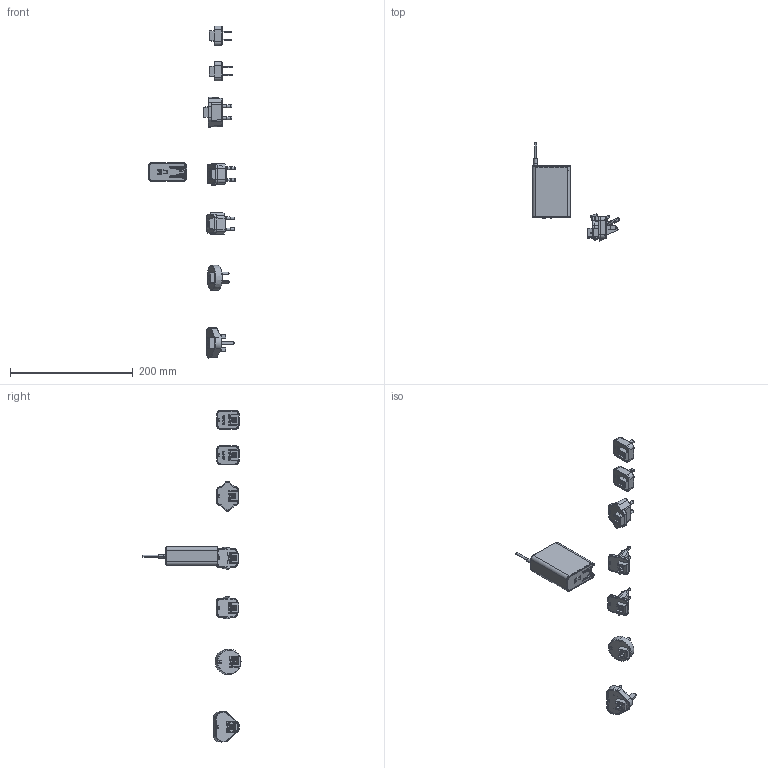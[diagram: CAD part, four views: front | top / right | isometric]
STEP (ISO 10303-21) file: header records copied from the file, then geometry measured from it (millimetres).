
FILE_DESCRIPTION(('Creo Elements/Direct Modeling STEP Export'),'2;1');
FILE_NAME('NGE90I.stp','2025-09-30T10:57:57',(''),(''),'Creo Elements/Direct Modeling STEP processor for AP214 (Solid Model)','Creo Elements/Direct Modeling 19.0G 27-Nov-2017 (C) Parametric Technology GmbH','');
FILE_SCHEMA(('AUTOMOTIVE_DESIGN { 1 0 10303 214 1 1 1 1 }'));
Length unit declared in the file: millimetre
Products named in the file (607): 零件1; _X2_96F64EF6_X0_1.PRT; ZHAOFAA4CA11JC19_ASM_ASM_ASM_AS.ASM; EU_1__STP_ASM_ASM_ASM_ASM_ASM.ASM; _X2_96F64EF6_X0_7_PRT_PRT-12670.ASM; _X2_96F64EF6_X0_6_PRT_PRT-25350.ASM; _X2_96F64EF6_X0_4_PRT_PRT-38030.ASM; _X2_96F64EF6_X0_3_PRT_PRT-50710.ASM; _X2_96F64EF6_X0_2_PRT_PRT-67610.ASM; _X2_96F64EF6_X0_1_PRT_P--177310.ASM; _X2_5F397247_X0_2_PRT_PR-189530.ASM; _X2_5F397247_X0_-195600_-201750.ASM; _X2_540E76D6_X0__PRT_PRT-323730.ASM; ZHAO54408073H96W_7_PRT_P-331470.ASM; ZHAO54408073H96W_15_PRT_-339210.ASM; ZHAO54408073H96W_14_PRT_-521310.ASM; ZHAO54408073H96W_12_PRT_-530730.ASM; ZHAO54408073H96W_11_PRT_-542390.ASM; ZHAO54408073H96W_10_PRT_-640030.ASM; ZHAO4A584105HRA6_3_PRT_P-827980.ASM; ZHAO1E64C46CAO2S_5_PRT_-1059460.PRT; ZHAO1E64C46CAO2S_5_PRT_-1065660.ASM; ZHAO1E64C46CAO2S_3_PRT_-1336520.PRT; ZHAO1E64C46CAO2S_3_PRT_-1342720.ASM; ADMI2C6073B82TSY_12_PRT-1920830.PRT; ZHAO1E64C46CAO2S_19_PRT-1522530.ASM; ZHAO1E64C46CAO2S_19_PRT-1610280.PRT; ZHAO1E64C46CAO2S_16_PRT-1635630.PRT; ZHAO1E64C46CAO2S_11_PRT-1644870.ASM; ZHAO1E64C46CAO2S_10_PRT-1654110.ASM; X_1-447760_PRT_PRT_PRT_-1666790.PRT; X_1-398720_PRT_PRT_PRT_-1678310.ASM; XX_PRT_PRT_PRT_PRT_PRT_-1690990.PRT; XX_1_PRT_PRT_PRT_PRT_PR-1702510.ASM; SSSQAAQQ-250940_PRT_PRT-1713730.ASM; SSSQAAQQ-250940_PRT_PRT-1724950.ASM; SSSQAA-231490_PRT_PRT_P-1736170.ASM; SSSQAA-231490_PRT_PRT_P-1747390.ASM; PIN_PRT_PRT_PRT_PRT_PRT-1761390.ASM; ADMI2C6073B82TSY_19_PRT-1771150.ASM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
Assembly tree (661 placements, depth 23):
  零件1
    零件1
  ____-20250928.stp.1
    NGE____-20250918_STP.ASM
      _X2_96F64EF6_X0_1_PRT.PRT
      NGE____-20250726_STP_ASM.ASM
        321_STP_ASM_ASM.ASM
          _X2_97627EC4_X0__1-247910_ASM_A.ASM
        MW2025001__-25_7_24_STP_ASM_ASM.ASM
        MW2025001__-25_7_24_STP_1_ASM_A.ASM
        NGE____-20250627_STP_ASM_ASM.ASM
          _X2_96F64EF6_X0_1_PRT_PRT_PRT.PRT
          NGE____-20250624_STP_ASM_ASM_AS.ASM
            NGE_____STP_ASM_ASM_ASM_ASM.ASM
              _X2_96F64EF6_X0_1_PRT_PRT_PRT_P.PRT
              NGE____-20250618_STP_ASM_ASM_AS.ASM
                ZHAO1E64C46CAO2S_20_PRT-1438860.ASM
                NGE____-20250527_STP_ASM_ASM_AS.ASM
                  _X2_96F64EF6_X0_1_PRT_PRT-97070.PRT
                  NGE____-20250527_STP_ASM-534480.ASM
                ZHAO1E64C46CAO2S_5_PRT_P-190810.ASM
                  ZHAO1E64C46CAO2S_5_PRT_P-190340.PRT
                _X2_96F64EF6_X0_1_PRT_PR-536450.PRT
              NGE____-20250524_STP_ASM_ASM_AS.ASM
                ADMI2C6073B82TSY_13_PRT-1827950.PRT
                ADMI2C6073B82TSY_18_PRT-1780910.ASM
                ADMI2C6073B82TSY_19_PRT-1771150.ASM
                PIN_PRT_PRT_PRT_PRT_PRT-1761390.ASM
                SSSQAA-231490_PRT_PRT_P-1747390.ASM
                SSSQAA-231490_PRT_PRT_P-1736170.ASM
                SSSQAAQQ-250940_PRT_PRT-1724950.ASM
                SSSQAAQQ-250940_PRT_PRT-1713730.ASM
                XX_1_PRT_PRT_PRT_PRT_PR-1702510.ASM
                XX_PRT_PRT_PRT_PRT_PRT_-1690990.PRT
                X_1-398720_PRT_PRT_PRT_-1678310.ASM
                X_1-447760_PRT_PRT_PRT_-1666790.PRT
                ZHAO1E64C46CAO2S_10_PRT-1654110.ASM
                ZHAO1E64C46CAO2S_11_PRT-1644870.ASM
                ZHAO1E64C46CAO2S_16_PRT-1635630.PRT
                ZHAO1E64C46CAO2S_19_PRT-1610280.PRT
                ZHAO1E64C46CAO2S_19_PRT-1522530.ASM
                ADMI2C6073B82TSY_12_PRT-1920830.PRT
                ZHAO1E64C46CAO2S_3_PRT_-1342720.ASM
                  ZHAO1E64C46CAO2S_3_PRT_-1336520.PRT
                ZHAO1E64C46CAO2S_5_PRT_-1065660.ASM
                  ZHAO1E64C46CAO2S_5_PRT_-1059460.PRT
                ZHAO4A584105HRA6_3_PRT_P-827980.ASM
                ZHAO54408073H96W_10_PRT_-640030.ASM
                ZHAO54408073H96W_11_PRT_-542390.ASM
                ZHAO54408073H96W_12_PRT_-530730.ASM
                ZHAO54408073H96W_14_PRT_-521310.ASM
                ZHAO54408073H96W_15_PRT_-339210.ASM
                ZHAO54408073H96W_7_PRT_P-331470.ASM
                _X2_540E76D6_X0__PRT_PRT-323730.ASM
                _X2_5F397247_X0_-195600_-201750.ASM
                _X2_5F397247_X0_2_PRT_PR-189530.ASM
                _X2_96F64EF6_X0_1_PRT_P--177310.ASM
                _X2_96F64EF6_X0_2_PRT_PRT-67610.ASM
                _X2_96F64EF6_X0_3_PRT_PRT-50710.ASM
                _X2_96F64EF6_X0_4_PRT_PRT-38030.ASM
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Bounding box: 141.68 x 159.58 x 540.2 mm (x, y, z)
Volume: 119386.9 mm3; surface area: 144631.4 mm2
Topology: 56 solids, 58 shells, 6644 faces, 18962 edges, 12593 vertices
Faces by surface type: plane 4474, cylinder 1323, cone 248, bspline 239, extrusion 217, torus 105, sphere 37, revolution 1
Entity records: 289981 total; most frequent: CARTESIAN_POINT 64923, ORIENTED_EDGE 37758, DIRECTION 33305, EDGE_CURVE 18879, VECTOR 13878, LINE 13661, VERTEX_POINT 12565, AXIS2_PLACEMENT_3D 9713
